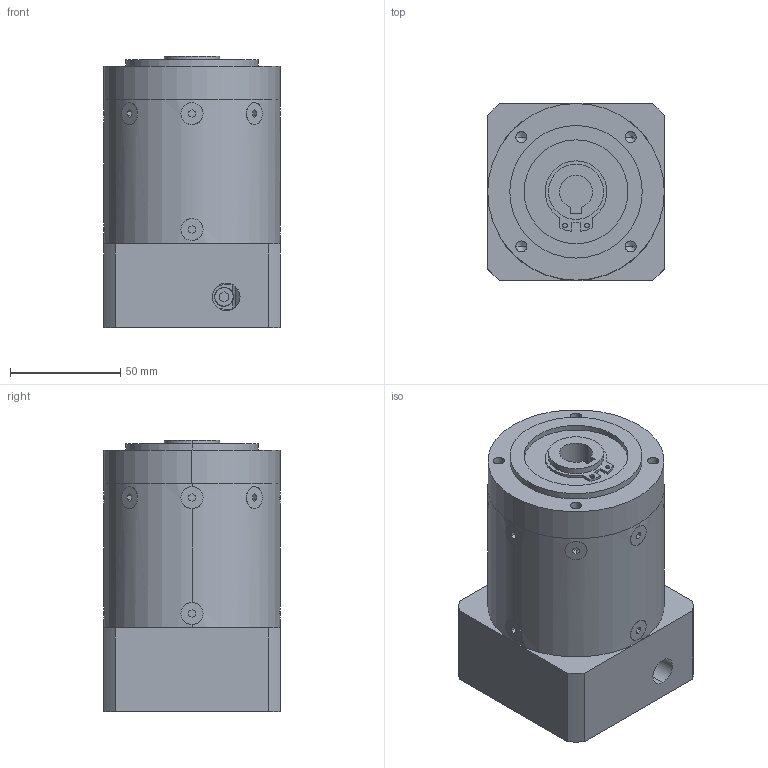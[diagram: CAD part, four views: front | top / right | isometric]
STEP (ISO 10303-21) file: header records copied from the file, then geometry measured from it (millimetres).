
FILE_DESCRIPTION (( 'STEP AP203' ), '1' );
FILE_NAME ('PBE80-L2-19-70-90.STEP', '2022-07-23T08:26:58', ( 'Windows User' ), ( 'P R C' ), 'SwSTEP 2.0', 'SolidWorks 2016', '' );
FILE_SCHEMA (( 'CONFIG_CONTROL_DESIGN' ));
Length unit declared in the file: millimetre
Products named in the file (7): PBE80 奻屳唳; PBE80 薊粣ん_D7-19 梓袧; PBE80 内齿圈-孔输出-B版_二级内齿圈; 囀鞠褒蹟佪-M5℅20; PBE80 蟀諉啣-梓袧; 粣創-6006 30x55x13; PBE80-L2-19-70-90
Assembly tree (6 placements, depth 2):
  PBE80-L2-19-70-90
    PBE80 奻屳唳
    PBE80 薊粣ん_D7-19 梓袧
    PBE80 内齿圈-孔输出-B版_二级内齿圈
    囀鞠褒蹟佪-M5℅20
    PBE80 蟀諉啣-梓袧
    粣創-6006 30x55x13
Bounding box: 80.1 x 80.1 x 123 mm (x, y, z)
Volume: 566738.8 mm3; surface area: 116528.4 mm2
Topology: 6 solids, 6 shells, 1064 faces, 2842 edges, 1867 vertices
Faces by surface type: plane 557, bspline 300, cylinder 179, cone 28
Entity records: 46059 total; most frequent: CARTESIAN_POINT 20817, ORIENTED_EDGE 5636, DIRECTION 4179, EDGE_CURVE 2818, VERTEX_POINT 1867, LINE 1445, VECTOR 1445, AXIS2_PLACEMENT_3D 1367
